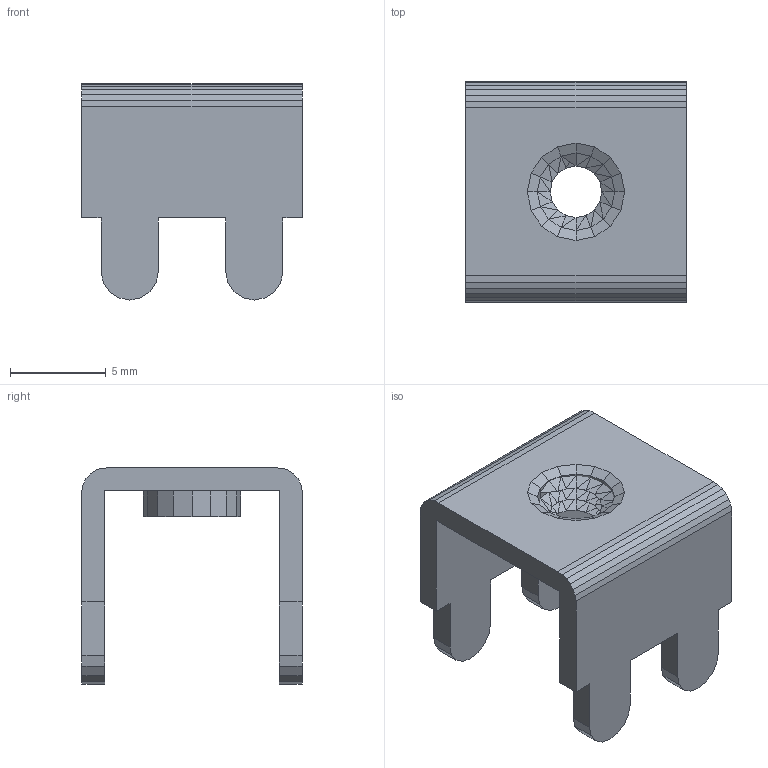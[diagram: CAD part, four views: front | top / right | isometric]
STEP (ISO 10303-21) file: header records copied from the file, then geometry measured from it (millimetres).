
FILE_DESCRIPTION(('FreeCAD Model'),'2;1');
FILE_NAME('Open CASCADE Shape Model','2026-07-27T22:25:41',('FreeCAD'),( 'FreeCAD'),'Open CASCADE STEP processor 7.9','FreeCAD','Unknown');
FILE_SCHEMA(('AUTOMOTIVE_DESIGN { 1 0 10303 214 1 1 1 1 }'));
Length unit declared in the file: millimetre
Products named in the file (1): Open CASCADE STEP translator 7.9 1
Bounding box: 11.51 x 11.51 x 11.29 mm (x, y, z)
Volume: 369.2 mm3; surface area: 813.5 mm2
Topology: 1 solids, 1 shells, 293 faces, 667 edges, 350 vertices
Faces by surface type: plane 293
Entity records: 8038 total; most frequent: ORIENTED_EDGE 1334, CARTESIAN_POINT 1311, DIRECTION 1255, EDGE_CURVE 667, LINE 667, VECTOR 667, VERTEX_POINT 350, FACE_BOUND 296
